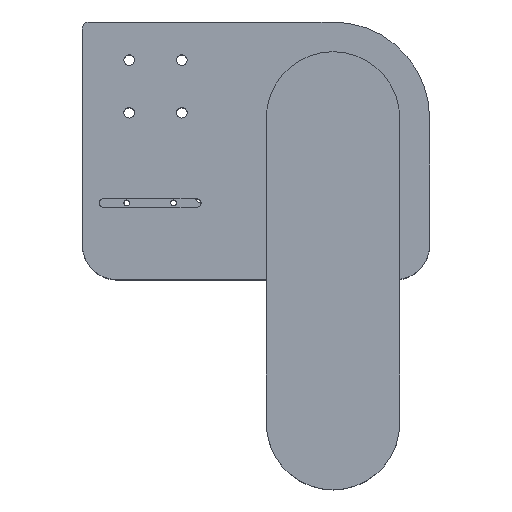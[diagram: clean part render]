
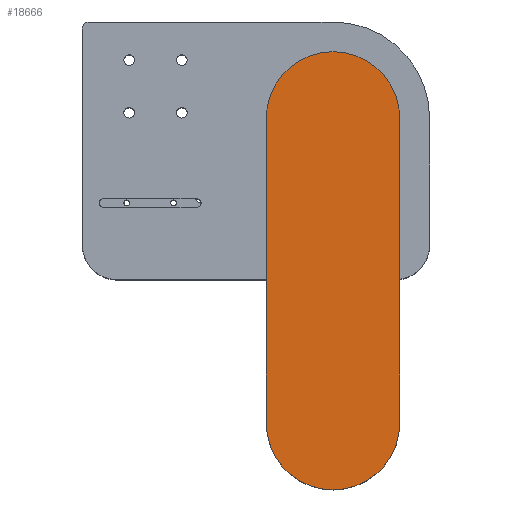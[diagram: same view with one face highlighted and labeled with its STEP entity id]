
A CAD part, top view. The second image highlights one B-rep face of the part: STEP entity #18666.
In plain terms, the highlighted planar face has unit normal (0, 0, 1).
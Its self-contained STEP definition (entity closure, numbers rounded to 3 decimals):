
#515 = DIRECTION ( 'NONE',  ( 0., 1., 0. ) ) ;
#516 = CARTESIAN_POINT ( 'NONE',  ( -139.5, -82.5, 82. ) ) ;
#522 = PLANE ( 'NONE',  #575 ) ;
#553 = DIRECTION ( 'NONE',  ( 1., 0., 0. ) ) ;
#554 = DIRECTION ( 'NONE',  ( 0., 0., -1. ) ) ;
#555 = CARTESIAN_POINT ( 'NONE',  ( -82.5, -82.5, 82. ) ) ;
#565 = VECTOR ( 'NONE', #515, 1000. ) ;
#566 = LINE ( 'NONE', #516, #565 ) ;
#570 = FACE_OUTER_BOUND ( 'NONE', #18656, .T. ) ;
#575 = AXIS2_PLACEMENT_3D ( 'NONE', #555, #554, #553 ) ;
#817 = LINE ( 'NONE', #874, #873 ) ;
#865 = CARTESIAN_POINT ( 'NONE',  ( -82.5, -342.5, 82. ) ) ;
#872 = DIRECTION ( 'NONE',  ( 0., -1., 0. ) ) ;
#873 = VECTOR ( 'NONE', #872, 1000. ) ;
#874 = CARTESIAN_POINT ( 'NONE',  ( -25.5, -82.5, 82. ) ) ;
#875 = AXIS2_PLACEMENT_3D ( 'NONE', #865, #913, #912 ) ;
#881 = CIRCLE ( 'NONE', #875, 57. ) ;
#912 = DIRECTION ( 'NONE',  ( 1., 0., 0. ) ) ;
#913 = DIRECTION ( 'NONE',  ( 0., 0., -1. ) ) ;
#938 = CARTESIAN_POINT ( 'NONE',  ( -25.5, -342.5, 82. ) ) ;
#948 = CARTESIAN_POINT ( 'NONE',  ( -139.5, -342.5, 82. ) ) ;
#4464 = DIRECTION ( 'NONE',  ( 1., 0., 0. ) ) ;
#4465 = DIRECTION ( 'NONE',  ( 0., 0., -1. ) ) ;
#4466 = CARTESIAN_POINT ( 'NONE',  ( -82.5, -82.5, 82. ) ) ;
#4476 = CIRCLE ( 'NONE', #4603, 57. ) ;
#4603 = AXIS2_PLACEMENT_3D ( 'NONE', #4466, #4465, #4464 ) ;
#4653 = CARTESIAN_POINT ( 'NONE',  ( -139.5, -82.5, 82. ) ) ;
#4655 = CARTESIAN_POINT ( 'NONE',  ( -25.5, -82.5, 82. ) ) ;
#18644 = ORIENTED_EDGE ( 'NONE', *, *, #18710, .F. ) ;
#18655 = ORIENTED_EDGE ( 'NONE', *, *, #18662, .F. ) ;
#18656 = EDGE_LOOP ( 'NONE', ( #18661, #18655, #18803, #18644 ) ) ;
#18661 = ORIENTED_EDGE ( 'NONE', *, *, #20863, .F. ) ;
#18662 = EDGE_CURVE ( 'NONE', #18820, #21003, #566, .T. ) ;
#18666 = ADVANCED_FACE ( 'NONE', ( #570 ), #522, .F. ) ;
#18710 = EDGE_CURVE ( 'NONE', #21000, #18821, #817, .T. ) ;
#18715 = EDGE_CURVE ( 'NONE', #18821, #18820, #881, .T. ) ;
#18803 = ORIENTED_EDGE ( 'NONE', *, *, #18715, .F. ) ;
#18820 = VERTEX_POINT ( 'NONE', #948 ) ;
#18821 = VERTEX_POINT ( 'NONE', #938 ) ;
#20863 = EDGE_CURVE ( 'NONE', #21003, #21000, #4476, .T. ) ;
#21000 = VERTEX_POINT ( 'NONE', #4655 ) ;
#21003 = VERTEX_POINT ( 'NONE', #4653 ) ;
